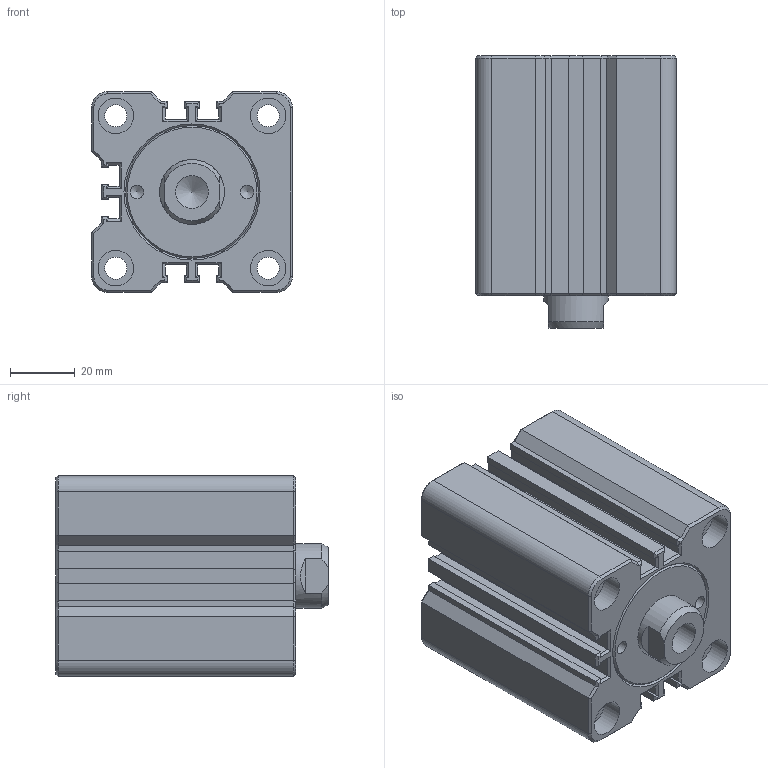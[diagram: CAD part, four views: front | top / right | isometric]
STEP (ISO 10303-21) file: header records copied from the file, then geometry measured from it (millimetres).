
FILE_DESCRIPTION(/* description */ ('Unknown'),/* implementation_level */ '2;1');
FILE_NAME(/* name */ 'HTM70-SDMB32X20N',/* time_stamp */ '2022-08-31T05:39:38+08:00',/* author */ ('Unknown'),/* organization */ ('Unknown'),/* preprocessor_version */ 'ST-DEVELOPER v16.7',/* originating_system */ 'DEX',/* authorisation */ $);
FILE_SCHEMA (('AUTOMOTIVE_DESIGN {1 0 10303 214 3 1 1}'));
Length unit declared in the file: millimetre
Products named in the file (1): HTM70-SDMB32X20N
Bounding box: 62 x 84 x 62 mm (x, y, z)
Volume: 238888.3 mm3; surface area: 41488.4 mm2
Topology: 1 solids, 1 shells, 321 faces, 746 edges, 447 vertices
Faces by surface type: plane 218, cone 40, bspline 36, cylinder 27
Full cylindrical faces by diameter (mm): 4.1 x2, 5 x2, 6 x1, 6.8 x4, 10.106 x1, 11 x8, 12 x2, 13 x2, 20 x1
Entity records: 11197 total; most frequent: CARTESIAN_POINT 2127, ORIENTED_EDGE 1386, DIRECTION 1284, EDGE_CURVE 693, LINE 486, VECTOR 486, VERTEX_POINT 434, AXIS2_PLACEMENT_3D 399
